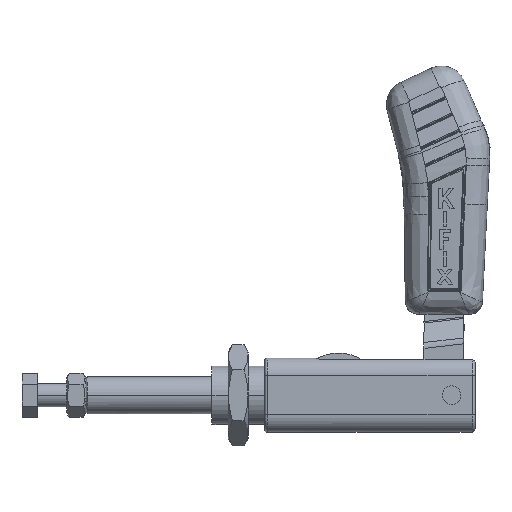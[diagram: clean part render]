
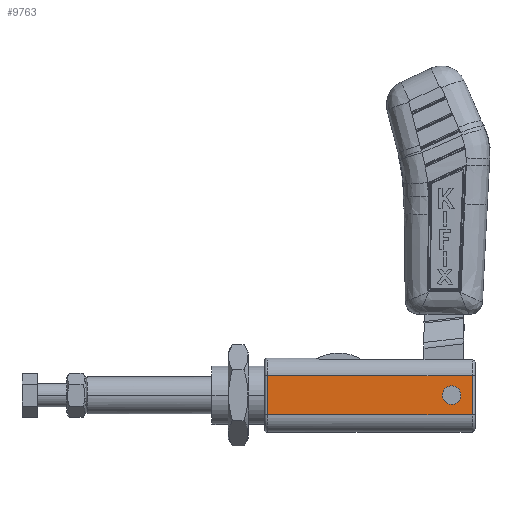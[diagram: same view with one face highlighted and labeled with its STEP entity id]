
A CAD part, top view. The second image highlights one B-rep face of the part: STEP entity #9763.
In plain terms, the highlighted planar face has unit normal (0, 0, 1).
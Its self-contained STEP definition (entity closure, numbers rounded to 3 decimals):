
#335 = CIRCLE ( 'NONE', #8688, 2.45 ) ;
#580 = VERTEX_POINT ( 'NONE', #7597 ) ;
#584 = AXIS2_PLACEMENT_3D ( 'NONE', #23826, #18211, #6927 ) ;
#812 = ORIENTED_EDGE ( 'NONE', *, *, #18922, .F. ) ;
#1206 = PLANE ( 'NONE',  #584 ) ;
#1841 = VERTEX_POINT ( 'NONE', #24145 ) ;
#2918 = VERTEX_POINT ( 'NONE', #11764 ) ;
#3199 = EDGE_LOOP ( 'NONE', ( #22611, #9932, #12671, #14723 ) ) ;
#3411 = LINE ( 'NONE', #15776, #12866 ) ;
#4059 = LINE ( 'NONE', #7261, #13514 ) ;
#4501 = EDGE_CURVE ( 'NONE', #2918, #12672, #3411, .T. ) ;
#6752 = CARTESIAN_POINT ( 'NONE',  ( 37., 0., 12.7 ) ) ;
#6845 = FACE_OUTER_BOUND ( 'NONE', #3199, .T. ) ;
#6927 = DIRECTION ( 'NONE',  ( 0., -1., 0. ) ) ;
#7261 = CARTESIAN_POINT ( 'NONE',  ( 44., 6.7, 12.7 ) ) ;
#7326 = ORIENTED_EDGE ( 'NONE', *, *, #19393, .F. ) ;
#7597 = CARTESIAN_POINT ( 'NONE',  ( 39.45, 0., 12.7 ) ) ;
#8263 = LINE ( 'NONE', #22476, #17713 ) ;
#8481 = EDGE_CURVE ( 'NONE', #12672, #22537, #10367, .T. ) ;
#8631 = DIRECTION ( 'NONE',  ( 1., 0., 0. ) ) ;
#8688 = AXIS2_PLACEMENT_3D ( 'NONE', #10818, #24031, #12718 ) ;
#9129 = DIRECTION ( 'NONE',  ( 0., 1., 0. ) ) ;
#9252 = DIRECTION ( 'NONE',  ( 1., 0., 0. ) ) ;
#9763 = ADVANCED_FACE ( 'NONE', ( #10657, #6845 ), #1206, .T. ) ;
#9932 = ORIENTED_EDGE ( 'NONE', *, *, #13787, .T. ) ;
#10367 = LINE ( 'NONE', #18682, #19218 ) ;
#10657 = FACE_BOUND ( 'NONE', #11566, .T. ) ;
#10818 = CARTESIAN_POINT ( 'NONE',  ( 37., 0., 12.7 ) ) ;
#10840 = CARTESIAN_POINT ( 'NONE',  ( 44., -6.7, 12.7 ) ) ;
#10922 = DIRECTION ( 'NONE',  ( 0., -1., 0. ) ) ;
#11566 = EDGE_LOOP ( 'NONE', ( #812, #7326 ) ) ;
#11764 = CARTESIAN_POINT ( 'NONE',  ( 44., 6.7, 12.7 ) ) ;
#12136 = AXIS2_PLACEMENT_3D ( 'NONE', #6752, #19944, #8631 ) ;
#12671 = ORIENTED_EDGE ( 'NONE', *, *, #4501, .T. ) ;
#12672 = VERTEX_POINT ( 'NONE', #16138 ) ;
#12718 = DIRECTION ( 'NONE',  ( 1., 0., 0. ) ) ;
#12866 = VECTOR ( 'NONE', #19574, 1000. ) ;
#13514 = VECTOR ( 'NONE', #9129, 1000. ) ;
#13787 = EDGE_CURVE ( 'NONE', #20591, #2918, #4059, .T. ) ;
#13931 = CIRCLE ( 'NONE', #12136, 2.45 ) ;
#14723 = ORIENTED_EDGE ( 'NONE', *, *, #8481, .T. ) ;
#15776 = CARTESIAN_POINT ( 'NONE',  ( -62.921, 6.7, 12.7 ) ) ;
#16138 = CARTESIAN_POINT ( 'NONE',  ( -26., 6.7, 12.7 ) ) ;
#17713 = VECTOR ( 'NONE', #9252, 1000. ) ;
#18211 = DIRECTION ( 'NONE',  ( 0., 0., 1. ) ) ;
#18682 = CARTESIAN_POINT ( 'NONE',  ( -26., -6.7, 12.7 ) ) ;
#18922 = EDGE_CURVE ( 'NONE', #580, #1841, #13931, .T. ) ;
#19218 = VECTOR ( 'NONE', #10922, 1000. ) ;
#19393 = EDGE_CURVE ( 'NONE', #1841, #580, #335, .T. ) ;
#19574 = DIRECTION ( 'NONE',  ( -1., 0., 0. ) ) ;
#19944 = DIRECTION ( 'NONE',  ( 0., 0., 1. ) ) ;
#20591 = VERTEX_POINT ( 'NONE', #10840 ) ;
#20721 = EDGE_CURVE ( 'NONE', #22537, #20591, #8263, .T. ) ;
#22476 = CARTESIAN_POINT ( 'NONE',  ( -62.921, -6.7, 12.7 ) ) ;
#22537 = VERTEX_POINT ( 'NONE', #24172 ) ;
#22611 = ORIENTED_EDGE ( 'NONE', *, *, #20721, .T. ) ;
#23826 = CARTESIAN_POINT ( 'NONE',  ( -62.921, 12.7, 12.7 ) ) ;
#24031 = DIRECTION ( 'NONE',  ( 0., 0., 1. ) ) ;
#24145 = CARTESIAN_POINT ( 'NONE',  ( 34.55, 0., 12.7 ) ) ;
#24172 = CARTESIAN_POINT ( 'NONE',  ( -26., -6.7, 12.7 ) ) ;
